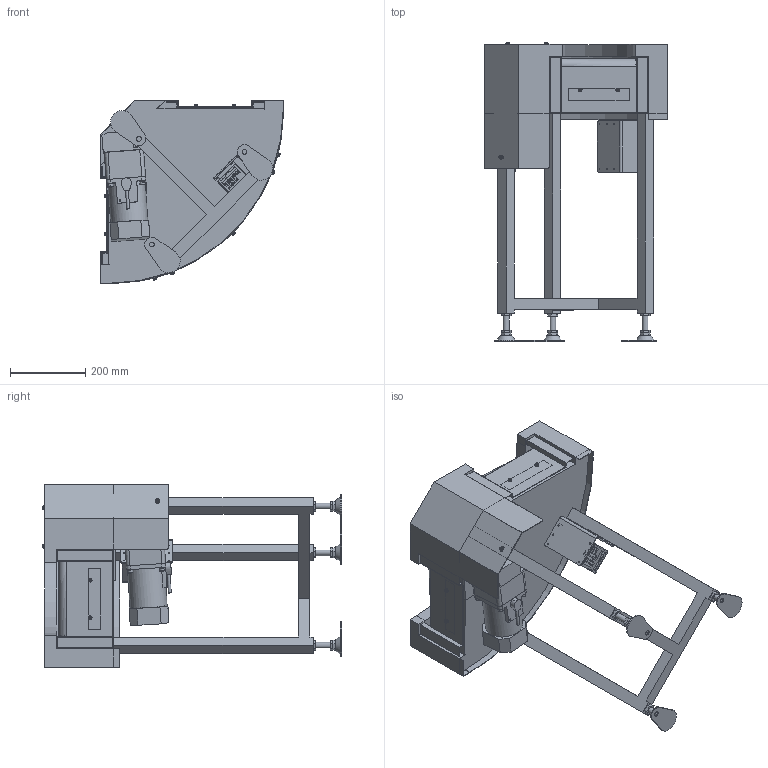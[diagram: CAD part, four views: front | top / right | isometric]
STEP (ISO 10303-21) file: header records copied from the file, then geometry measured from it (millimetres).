
FILE_DESCRIPTION( (''), '2;1');
FILE_NAME ('WEB-MBC2H-UD-320-200-90°-L-IVH-5-O-H.stp','2026-06-19T10:41:22',(''),(''),'spGate 21.9.5 (****-****-****-****)','','');
FILE_SCHEMA (('AUTOMOTIVE_DESIGN'));
Length unit declared in the file: millimetre
Products named in the file (38): WEB-MBC2H-UD-320-200-90_-L-IVH-5-O-H; TEMP_X_T-prt0; TEMP_X_T-prt1; TEMP_X_T-prt2; TEMP_X_T-prt3; TEMP_X_T-prt4; TEMP_X_T-prt5; TEMP_X_T-prt6; TEMP_X_T-prt7; TEMP_X_T-prt8; TEMP_X_T-prt9; TEMP_X_T-prt10; TEMP_X_T-prt11; TEMP_X_T-prt12; TEMP_X_T-prt13; TEMP_X_T-prt14; TEMP_X_T-prt15; TEMP_X_T-prt16; TEMP_X_T-prt17; TEMP_X_T-prt18; TEMP_X_T-prt19; TEMP_X_T-prt20; TEMP_X_T-prt21; TEMP_X_T-prt22; TEMP_X_T-prt23; TEMP_X_T-prt24; TEMP_X_T-prt25; TEMP_X_T-prt26; TEMP_X_T-prt27; TEMP_X_T-prt28; TEMP_X_T-prt29; TEMP_X_T-prt30; TEMP_X_T-prt31; TEMP_X_T-prt32; TEMP_X_T-prt33; TEMP_X_T-prt34; TEMP_X_T-prt35; TEMP_X_T-prt36
Assembly tree (37 placements, depth 2):
  WEB-MBC2H-UD-320-200-90_-L-IVH-5-O-H
    TEMP_X_T-prt0
    TEMP_X_T-prt1
    TEMP_X_T-prt2
    TEMP_X_T-prt3
    TEMP_X_T-prt4
    TEMP_X_T-prt5
    TEMP_X_T-prt6
    TEMP_X_T-prt7
    TEMP_X_T-prt8
    TEMP_X_T-prt9
    TEMP_X_T-prt10
    TEMP_X_T-prt11
    TEMP_X_T-prt12
    TEMP_X_T-prt13
    TEMP_X_T-prt14
    TEMP_X_T-prt15
    TEMP_X_T-prt16
    TEMP_X_T-prt17
    TEMP_X_T-prt18
    TEMP_X_T-prt19
    TEMP_X_T-prt20
    TEMP_X_T-prt21
    TEMP_X_T-prt22
    TEMP_X_T-prt23
    TEMP_X_T-prt24
    TEMP_X_T-prt25
    TEMP_X_T-prt26
    TEMP_X_T-prt27
    TEMP_X_T-prt28
    TEMP_X_T-prt29
    TEMP_X_T-prt30
    TEMP_X_T-prt31
    TEMP_X_T-prt32
    TEMP_X_T-prt33
    TEMP_X_T-prt34
    TEMP_X_T-prt35
    TEMP_X_T-prt36
Bounding box: 488.1 x 794.6 x 488.1 mm (x, y, z)
Volume: 23575059.9 mm3; surface area: 2096152.3 mm2
Topology: 35 solids, 46 shells, 1511 faces, 3935 edges, 2668 vertices
Faces by surface type: plane 1122, cylinder 253, bspline 134, sphere 2
Full cylindrical faces by diameter (mm): 3.3 x6, 3.5 x12, 3.8 x2, 4 x11, 5 x5, 5.8 x10, 6 x4, 6.4 x7, 6.5 x2, 6.6 x2, 7 x5, 7.5 x1, 7.8 x1, 8 x6, 8.5 x8, 9 x14, 9.2 x12, 10 x16, 12.04 x1, 12.5 x7, 13 x7, 16 x9, 18 x1, 20 x1, 23 x1, 42 x1, 43 x1, 94 x1, 99 x1
Entity records: 83739 total; most frequent: CARTESIAN_POINT 14254, ORIENTED_EDGE 7866, DIRECTION 7360, COLOUR_RGB 5484, PRESENTATION_STYLE_ASSIGNMENT 5484, STYLED_ITEM 5484, EDGE_CURVE 3935, DRAUGHTING_PRE_DEFINED_CURVE_FONT 3935
